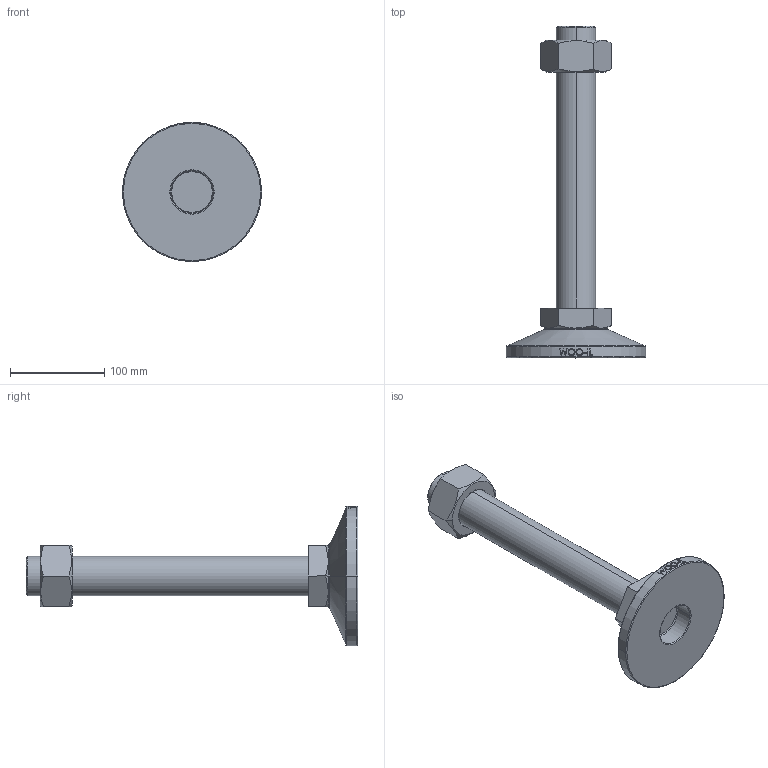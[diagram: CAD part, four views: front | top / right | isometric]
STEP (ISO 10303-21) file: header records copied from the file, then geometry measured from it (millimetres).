
FILE_DESCRIPTION (( 'STEP AP214' ), '1' );
FILE_NAME ('MF148-M42-300.step', '2021-02-03T08:16:07', ( '' ), ( '' ), 'SwSTEP 2.0', 'SolidWorks 2019', '' );
FILE_SCHEMA (( 'AUTOMOTIVE_DESIGN' ));
Length unit declared in the file: millimetre
Products named in the file (2): MF148-M42-300
Bounding box: 148 x 353 x 148 mm (x, y, z)
Volume: 926189.3 mm3; surface area: 111550 mm2
Topology: 3 solids, 3 shells, 106 faces, 243 edges, 154 vertices
Faces by surface type: plane 48, cylinder 18, bspline 16, cone 14, torus 10
Entity records: 4562 total; most frequent: CARTESIAN_POINT 2219, ORIENTED_EDGE 486, DIRECTION 439, EDGE_CURVE 243, AXIS2_PLACEMENT_3D 170, VERTEX_POINT 154, EDGE_LOOP 119, FACE_OUTER_BOUND 106
